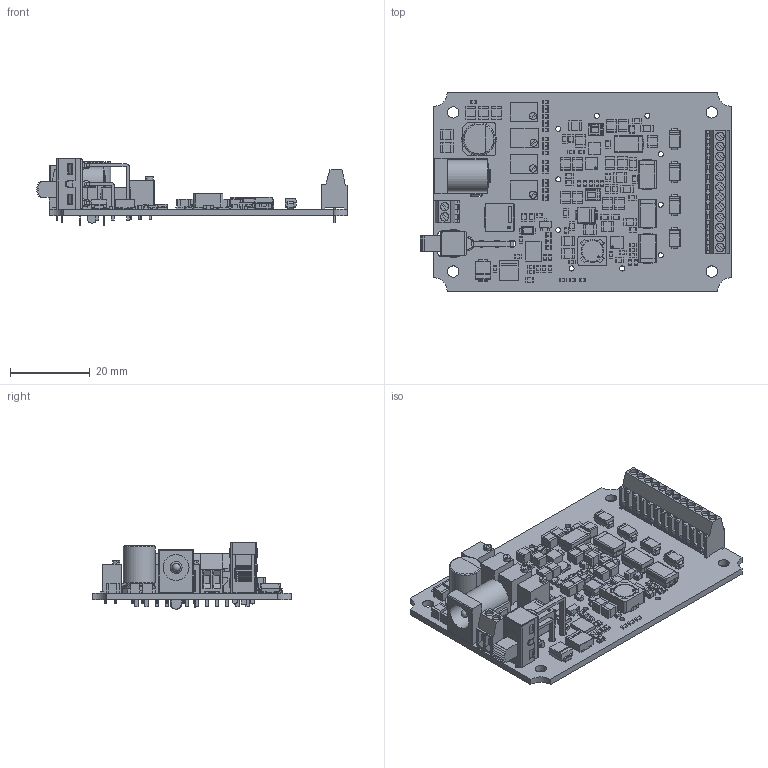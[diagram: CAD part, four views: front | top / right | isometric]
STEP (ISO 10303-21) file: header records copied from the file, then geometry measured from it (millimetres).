
FILE_DESCRIPTION(('Open CASCADE Model'),'2;1');
FILE_NAME('Open CASCADE Shape Model','2021-03-23T16:48:04',('Author'),( 'Open CASCADE'),'Open CASCADE STEP processor 6.8','Open CASCADE 6.8' ,'Unknown');
FILE_SCHEMA(('AUTOMOTIVE_DESIGN { 1 0 10303 214 1 1 1 1 }'));
Length unit declared in the file: millimetre
Products named in the file (319): SPS101
Assembly tree (634 placements, depth 5):
  SPS101
    SPS101
      SPS101
    SPS101
      SPS101
      SPS101
      SPS101
    SPS101
      SPS101
      SPS101
      SPS101
    SPS101
      SPS101
      SPS101
      SPS101
    SPS101
      SPS101
      SPS101
      SPS101
    SPS101
      SPS101
      SPS101
      SPS101
    SPS101
      SPS101
      SPS101
      SPS101
    SPS101
      SPS101
      SPS101
      SPS101
    SPS101
      SPS101
      SPS101
      SPS101
    SPS101
      SPS101
      SPS101
      SPS101
    SPS101
      SPS101
      SPS101
      SPS101
    SPS101
      SPS101
      SPS101
      SPS101
    SPS101
      SPS101
      SPS101
      SPS101
    SPS101
      SPS101
      SPS101
      SPS101
    SPS101
      SPS101
      SPS101
      SPS101
    SPS101
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Bounding box: 78.25 x 50 x 16.7 mm (x, y, z)
Volume: 12432.8 mm3; surface area: 20439.3 mm2
Topology: 501 solids, 507 shells, 5441 faces, 12608 edges, 8179 vertices
Faces by surface type: plane 4342, cylinder 879, sphere 81, bspline 64, torus 58, extrusion 16, cone 1
Full cylindrical faces by diameter (mm): 0.65 x8, 0.9 x24, 1 x1, 1.27 x14, 1.85 x5, 2 x3, 2.1 x24, 2.8 x1, 2.85 x4, 3 x1, 3.4 x1, 6.5 x1
Entity records: 105184 total; most frequent: CARTESIAN_POINT 17484, DIRECTION 14294, ORIENTED_EDGE 13618, EDGE_CURVE 6827, VECTOR 5480, LINE 5476, VERTEX_POINT 4459, AXIS2_PLACEMENT_3D 4407
